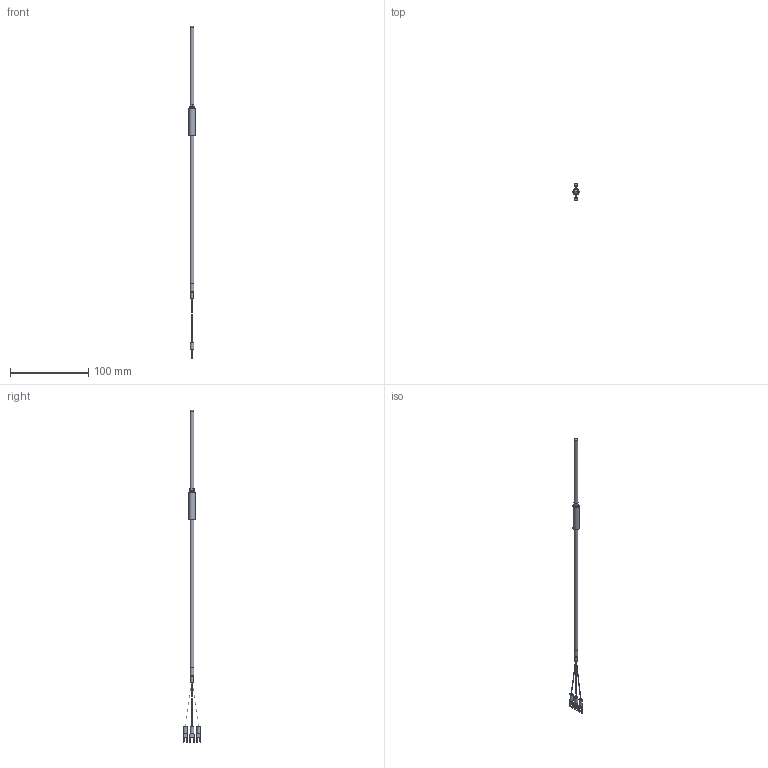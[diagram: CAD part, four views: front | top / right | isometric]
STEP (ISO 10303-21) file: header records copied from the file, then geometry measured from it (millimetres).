
FILE_DESCRIPTION (( 'STEP AP203' ), '1' );
FILE_NAME ('YIR101-5(0).STEP', '2024-09-26T07:42:30', ( '' ), ( '' ), 'SwSTEP 2.0', 'SolidWorks 2021', '' );
FILE_SCHEMA (( 'CONFIG_CONTROL_DESIGN' ));
Length unit declared in the file: millimetre
Products named in the file (1): YIR101-5(0)
Bounding box: 8 x 22.96 x 424.72 mm (x, y, z)
Volume: 8106 mm3; surface area: 6793.7 mm2
Topology: 1 solids, 1 shells, 88 faces, 217 edges, 142 vertices
Faces by surface type: plane 46, cylinder 30, bspline 8, cone 3, torus 1
Full cylindrical faces by diameter (mm): 0.5 x1, 3.16 x1, 4.5 x3, 4.8 x1, 5 x2, 8 x1
Entity records: 2757 total; most frequent: CARTESIAN_POINT 671, DIRECTION 412, ORIENTED_EDGE 394, EDGE_CURVE 197, AXIS2_PLACEMENT_3D 146, VERTEX_POINT 137, LINE 120, VECTOR 120
